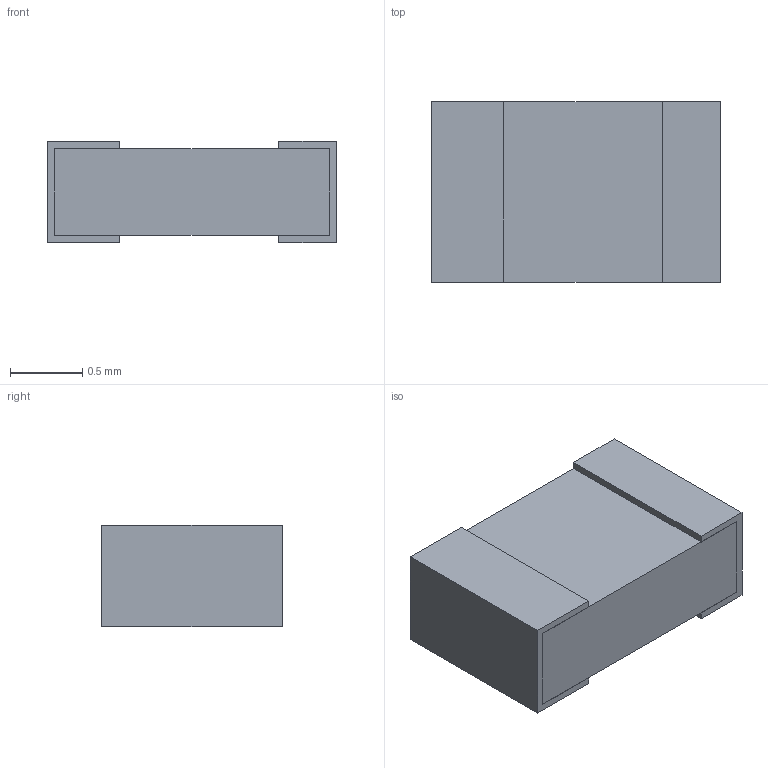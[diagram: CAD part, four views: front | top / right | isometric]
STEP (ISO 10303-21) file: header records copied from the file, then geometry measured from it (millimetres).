
FILE_DESCRIPTION(('STEP AP203'), '1');
FILE_NAME('Ð1-16-0,062', '', ('UNSPECIFIED'), ('UNSPECIFIED'), 'ASCON STEP Converter 1.6', 'ASCON Math Kernel', '');
FILE_SCHEMA(('CONFIG_CONTROL_DESIGN'));
Length unit declared in the file: millimetre
Bounding box: 2 x 1.25 x 0.7 mm (x, y, z)
Volume: 1.6 mm3; surface area: 16.6 mm2
Topology: 3 solids, 3 shells, 26 faces, 60 edges, 40 vertices
Faces by surface type: plane 26
Entity records: 988 total; most frequent: CARTESIAN_POINT 127, ORIENTED_EDGE 120, DIRECTION 114, EDGE_CURVE 60, LINE 60, VECTOR 60, VERTEX_POINT 40, COLOUR_RGB 29
